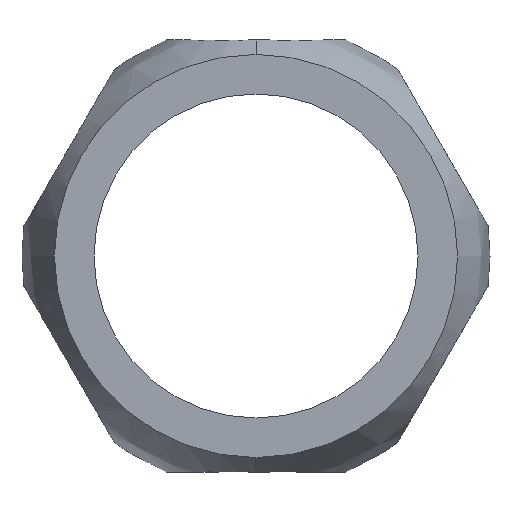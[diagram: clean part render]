
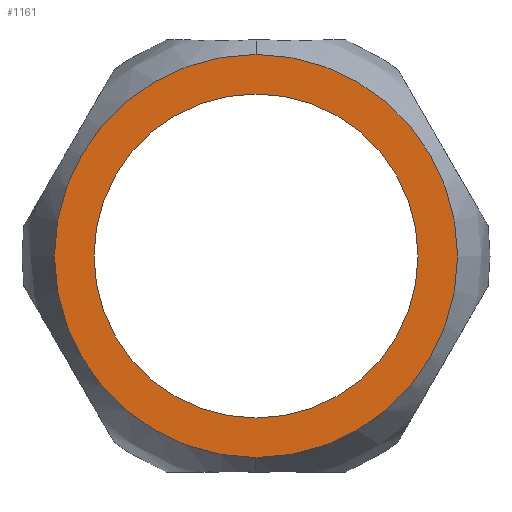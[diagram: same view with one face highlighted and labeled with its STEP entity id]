
A CAD part, left-side view. The second image highlights one B-rep face of the part: STEP entity #1161.
In plain terms, the highlighted planar face has unit normal (-1, 0, 0).
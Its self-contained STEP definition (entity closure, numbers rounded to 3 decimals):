
#75=CARTESIAN_POINT('',(0.0,0.,11.25));
#76=VERTEX_POINT('',#75);
#92=CARTESIAN_POINT('',(0.,-11.25,0.));
#93=VERTEX_POINT('',#92);
#100=CARTESIAN_POINT('',(0.0,0.,0.0));
#101=DIRECTION('',(1.0,0.0,0.0));
#102=DIRECTION('',(0.0,0.0,-1.0));
#103=AXIS2_PLACEMENT_3D('',#100,#101,#102);
#104=CIRCLE('',#103,11.25);
#105=EDGE_CURVE('',#76,#93,#104,.T.);
#277=CARTESIAN_POINT('',(0.0,0.,-11.25));
#278=VERTEX_POINT('',#277);
#294=CARTESIAN_POINT('',(0.,11.25,0.0));
#295=VERTEX_POINT('',#294);
#302=CARTESIAN_POINT('',(0.0,0.,0.0));
#303=DIRECTION('',(1.0,0.0,0.0));
#304=DIRECTION('',(0.0,0.0,1.0));
#305=AXIS2_PLACEMENT_3D('',#302,#303,#304);
#306=CIRCLE('',#305,11.25);
#307=EDGE_CURVE('',#278,#295,#306,.T.);
#383=CARTESIAN_POINT('',(0.,0.,-13.997));
#384=VERTEX_POINT('',#383);
#400=CARTESIAN_POINT('',(0.,13.997,0.0));
#401=VERTEX_POINT('',#400);
#402=CARTESIAN_POINT('',(0.,0.,0.0));
#403=DIRECTION('',(1.0,0.0,0.0));
#404=DIRECTION('',(0.0,1.0,0.0));
#405=AXIS2_PLACEMENT_3D('',#402,#403,#404);
#406=CIRCLE('',#405,13.997);
#407=EDGE_CURVE('',#384,#401,#406,.T.);
#409=CARTESIAN_POINT('',(0.,0.,13.997));
#410=VERTEX_POINT('',#409);
#411=CARTESIAN_POINT('',(0.,0.,0.0));
#412=DIRECTION('',(1.0,0.0,0.0));
#413=DIRECTION('',(0.0,1.0,0.0));
#414=AXIS2_PLACEMENT_3D('',#411,#412,#413);
#415=CIRCLE('',#414,13.997);
#416=EDGE_CURVE('',#401,#410,#415,.T.);
#670=CARTESIAN_POINT('',(0.0,0.,0.0));
#671=DIRECTION('',(1.0,0.0,0.0));
#672=DIRECTION('',(0.0,0.0,1.0));
#673=AXIS2_PLACEMENT_3D('',#670,#671,#672);
#674=CIRCLE('',#673,11.25);
#675=EDGE_CURVE('',#93,#278,#674,.T.);
#1039=CARTESIAN_POINT('',(0.0,0.,0.0));
#1040=DIRECTION('',(1.0,0.0,0.0));
#1041=DIRECTION('',(0.0,0.0,-1.0));
#1042=AXIS2_PLACEMENT_3D('',#1039,#1040,#1041);
#1043=CIRCLE('',#1042,11.25);
#1044=EDGE_CURVE('',#295,#76,#1043,.T.);
#1129=CARTESIAN_POINT('',(0.,0.,0.0));
#1130=DIRECTION('',(1.0,0.0,0.0));
#1131=DIRECTION('',(0.0,1.0,0.0));
#1132=AXIS2_PLACEMENT_3D('',#1129,#1130,#1131);
#1133=CIRCLE('',#1132,13.997);
#1134=EDGE_CURVE('',#410,#384,#1133,.T.);
#1145=CARTESIAN_POINT('',(0.0,-15.396,-15.396));
#1146=DIRECTION('',(-1.0,0.0,0.0));
#1147=DIRECTION('',(0.0,0.0,1.0));
#1148=AXIS2_PLACEMENT_3D('',#1145,#1146,#1147);
#1149=PLANE('',#1148);
#1150=ORIENTED_EDGE('',*,*,#416,.F.);
#1151=ORIENTED_EDGE('',*,*,#407,.F.);
#1152=ORIENTED_EDGE('',*,*,#1134,.F.);
#1153=EDGE_LOOP('',(#1150,#1151,#1152));
#1154=FACE_OUTER_BOUND('',#1153,.T.);
#1155=ORIENTED_EDGE('',*,*,#1044,.T.);
#1156=ORIENTED_EDGE('',*,*,#105,.T.);
#1157=ORIENTED_EDGE('',*,*,#675,.T.);
#1158=ORIENTED_EDGE('',*,*,#307,.T.);
#1159=EDGE_LOOP('',(#1155,#1156,#1157,#1158));
#1160=FACE_BOUND('',#1159,.T.);
#1161=ADVANCED_FACE('',(#1154,#1160),#1149,.T.);
